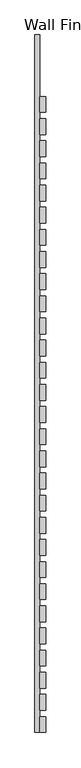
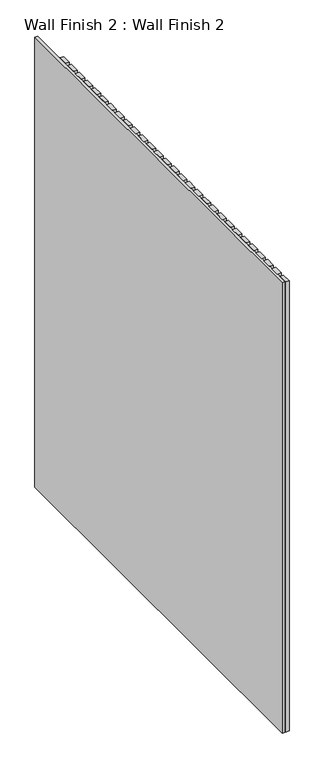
"""IFC4 building model written with IfcOpenShell, lengths in millimetres: furniture geometry, Wall Finish 2 : Wall Finish 2."""

from ifc_helpers import new_model, si_unit, frame, origin, place, context, project, spatial, polyline, outline, extrude, source, transform, mapped, element, save


def wall_finish_2_wall_finish_2_ec604deb(model_context):
    return source(origin(), model_context, "Body", "SweptSolid", [
        extrude(outline(polyline([(6345.6584713, -3831.9389803), (6345.6584713, -3881.9389803), (6325.6584713, -3881.9389803), (6325.6584713, -3831.9389803), (6345.6584713, -3831.9389803)])), frame((0.0, 0.0, 150.0), z_axis=(0.0, 0.0, 1.0), x_axis=(1.0, 0.0, 0.0)), (0.0, 0.0, 1.0), 2450.0),
        extrude(outline(polyline([(6345.6584713, -3761.9389803), (6345.6584713, -3811.9389803), (6325.6584713, -3811.9389803), (6325.6584713, -3761.9389803), (6345.6584713, -3761.9389803)])), frame((0.0, 0.0, 150.0), z_axis=(0.0, 0.0, 1.0), x_axis=(1.0, 0.0, 0.0)), (0.0, 0.0, 1.0), 2450.0),
        extrude(outline(polyline([(6345.6584713, -3691.9389803), (6345.6584713, -3741.9389803), (6325.6584713, -3741.9389803), (6325.6584713, -3691.9389803), (6345.6584713, -3691.9389803)])), frame((0.0, 0.0, 150.0), z_axis=(0.0, 0.0, 1.0), x_axis=(1.0, 0.0, 0.0)), (0.0, 0.0, 1.0), 2450.0),
        extrude(outline(polyline([(6345.6584713, -3621.9389803), (6345.6584713, -3671.9389803), (6325.6584713, -3671.9389803), (6325.6584713, -3621.9389803), (6345.6584713, -3621.9389803)])), frame((0.0, 0.0, 150.0), z_axis=(0.0, 0.0, 1.0), x_axis=(1.0, 0.0, 0.0)), (0.0, 0.0, 1.0), 2450.0),
        extrude(outline(polyline([(6345.6584713, -3551.9389803), (6345.6584713, -3601.9389803), (6325.6584713, -3601.9389803), (6325.6584713, -3551.9389803), (6345.6584713, -3551.9389803)])), frame((0.0, 0.0, 150.0), z_axis=(0.0, 0.0, 1.0), x_axis=(1.0, 0.0, 0.0)), (0.0, 0.0, 1.0), 2450.0),
        extrude(outline(polyline([(6345.6584713, -3481.9389803), (6345.6584713, -3531.9389803), (6325.6584713, -3531.9389803), (6325.6584713, -3481.9389803), (6345.6584713, -3481.9389803)])), frame((0.0, 0.0, 150.0), z_axis=(0.0, 0.0, 1.0), x_axis=(1.0, 0.0, 0.0)), (0.0, 0.0, 1.0), 2450.0),
        extrude(outline(polyline([(6345.6584713, -3411.9389803), (6345.6584713, -3461.9389803), (6325.6584713, -3461.9389803), (6325.6584713, -3411.9389803), (6345.6584713, -3411.9389803)])), frame((0.0, 0.0, 150.0), z_axis=(0.0, 0.0, 1.0), x_axis=(1.0, 0.0, 0.0)), (0.0, 0.0, 1.0), 2450.0),
        extrude(outline(polyline([(6345.6584713, -3341.9389803), (6345.6584713, -3391.9389803), (6325.6584713, -3391.9389803), (6325.6584713, -3341.9389803), (6345.6584713, -3341.9389803)])), frame((0.0, 0.0, 150.0), z_axis=(0.0, 0.0, 1.0), x_axis=(1.0, 0.0, 0.0)), (0.0, 0.0, 1.0), 2450.0),
        extrude(outline(polyline([(6345.6584713, -3271.9389803), (6345.6584713, -3321.9389803), (6325.6584713, -3321.9389803), (6325.6584713, -3271.9389803), (6345.6584713, -3271.9389803)])), frame((0.0, 0.0, 150.0), z_axis=(0.0, 0.0, 1.0), x_axis=(1.0, 0.0, 0.0)), (0.0, 0.0, 1.0), 2450.0),
        extrude(outline(polyline([(6345.6584713, -3201.9389803), (6345.6584713, -3251.9389803), (6325.6584713, -3251.9389803), (6325.6584713, -3201.9389803), (6345.6584713, -3201.9389803)])), frame((0.0, 0.0, 150.0), z_axis=(0.0, 0.0, 1.0), x_axis=(1.0, 0.0, 0.0)), (0.0, 0.0, 1.0), 2450.0),
        extrude(outline(polyline([(6345.6584713, -3131.9389803), (6345.6584713, -3181.9389803), (6325.6584713, -3181.9389803), (6325.6584713, -3131.9389803), (6345.6584713, -3131.9389803)])), frame((0.0, 0.0, 150.0), z_axis=(0.0, 0.0, 1.0), x_axis=(1.0, 0.0, 0.0)), (0.0, 0.0, 1.0), 2450.0),
        extrude(outline(polyline([(6345.6584713, -3061.9389803), (6345.6584713, -3111.9389803), (6325.6584713, -3111.9389803), (6325.6584713, -3061.9389803), (6345.6584713, -3061.9389803)])), frame((0.0, 0.0, 150.0), z_axis=(0.0, 0.0, 1.0), x_axis=(1.0, 0.0, 0.0)), (0.0, 0.0, 1.0), 2450.0),
        extrude(outline(polyline([(6345.6584713, -2991.9389803), (6345.6584713, -3041.9389803), (6325.6584713, -3041.9389803), (6325.6584713, -2991.9389803), (6345.6584713, -2991.9389803)])), frame((0.0, 0.0, 150.0), z_axis=(0.0, 0.0, 1.0), x_axis=(1.0, 0.0, 0.0)), (0.0, 0.0, 1.0), 2450.0),
        extrude(outline(polyline([(6345.6584713, -2921.9389803), (6345.6584713, -2971.9389803), (6325.6584713, -2971.9389803), (6325.6584713, -2921.9389803), (6345.6584713, -2921.9389803)])), frame((0.0, 0.0, 150.0), z_axis=(0.0, 0.0, 1.0), x_axis=(1.0, 0.0, 0.0)), (0.0, 0.0, 1.0), 2450.0),
        extrude(outline(polyline([(6345.6584713, -2851.9389803), (6345.6584713, -2901.9389803), (6325.6584713, -2901.9389803), (6325.6584713, -2851.9389803), (6345.6584713, -2851.9389803)])), frame((0.0, 0.0, 150.0), z_axis=(0.0, 0.0, 1.0), x_axis=(1.0, 0.0, 0.0)), (0.0, 0.0, 1.0), 2450.0),
        extrude(outline(polyline([(6345.6584713, -2781.9389803), (6345.6584713, -2831.9389803), (6325.6584713, -2831.9389803), (6325.6584713, -2781.9389803), (6345.6584713, -2781.9389803)])), frame((0.0, 0.0, 150.0), z_axis=(0.0, 0.0, 1.0), x_axis=(1.0, 0.0, 0.0)), (0.0, 0.0, 1.0), 2450.0),
        extrude(outline(polyline([(6345.6584713, -2711.9389803), (6345.6584713, -2761.9389803), (6325.6584713, -2761.9389803), (6325.6584713, -2711.9389803), (6345.6584713, -2711.9389803)])), frame((0.0, 0.0, 150.0), z_axis=(0.0, 0.0, 1.0), x_axis=(1.0, 0.0, 0.0)), (0.0, 0.0, 1.0), 2450.0),
        extrude(outline(polyline([(6345.6584713, -2641.9389803), (6345.6584713, -2691.9389803), (6325.6584713, -2691.9389803), (6325.6584713, -2641.9389803), (6345.6584713, -2641.9389803)])), frame((0.0, 0.0, 150.0), z_axis=(0.0, 0.0, 1.0), x_axis=(1.0, 0.0, 0.0)), (0.0, 0.0, 1.0), 2450.0),
        extrude(outline(polyline([(6345.6584713, -2571.9389803), (6345.6584713, -2621.9389803), (6325.6584713, -2621.9389803), (6325.6584713, -2571.9389803), (6345.6584713, -2571.9389803)])), frame((0.0, 0.0, 150.0), z_axis=(0.0, 0.0, 1.0), x_axis=(1.0, 0.0, 0.0)), (0.0, 0.0, 1.0), 2450.0),
        extrude(outline(polyline([(6345.6584713, -2501.9389803), (6345.6584713, -2551.9389803), (6325.6584713, -2551.9389803), (6325.6584713, -2501.9389803), (6345.6584713, -2501.9389803)])), frame((0.0, 0.0, 150.0), z_axis=(0.0, 0.0, 1.0), x_axis=(1.0, 0.0, 0.0)), (0.0, 0.0, 1.0), 2450.0),
        extrude(outline(polyline([(6345.6584713, -2431.9389803), (6345.6584713, -2481.9389803), (6325.6584713, -2481.9389803), (6325.6584713, -2431.9389803), (6345.6584713, -2431.9389803)])), frame((0.0, 0.0, 150.0), z_axis=(0.0, 0.0, 1.0), x_axis=(1.0, 0.0, 0.0)), (0.0, 0.0, 1.0), 2450.0),
        extrude(outline(polyline([(6345.6584713, -2361.9389803), (6345.6584713, -2411.9389803), (6325.6584713, -2411.9389803), (6325.6584713, -2361.9389803), (6345.6584713, -2361.9389803)])), frame((0.0, 0.0, 150.0), z_axis=(0.0, 0.0, 1.0), x_axis=(1.0, 0.0, 0.0)), (0.0, 0.0, 1.0), 2450.0),
        extrude(outline(polyline([(6345.6584713, -2291.9389803), (6345.6584713, -2341.9389803), (6325.6584713, -2341.9389803), (6325.6584713, -2291.9389803), (6345.6584713, -2291.9389803)])), frame((0.0, 0.0, 150.0), z_axis=(0.0, 0.0, 1.0), x_axis=(1.0, 0.0, 0.0)), (0.0, 0.0, 1.0), 2450.0),
        extrude(outline(polyline([(6345.6584713, -2221.9389803), (6345.6584713, -2271.9389803), (6325.6584713, -2271.9389803), (6325.6584713, -2221.9389803), (6345.6584713, -2221.9389803)])), frame((0.0, 0.0, 150.0), z_axis=(0.0, 0.0, 1.0), x_axis=(1.0, 0.0, 0.0)), (0.0, 0.0, 1.0), 2450.0),
        extrude(outline(polyline([(6345.6584713, -2151.9389803), (6345.6584713, -2201.9389803), (6325.6584713, -2201.9389803), (6325.6584713, -2151.9389803), (6345.6584713, -2151.9389803)])), frame((0.0, 0.0, 150.0), z_axis=(0.0, 0.0, 1.0), x_axis=(1.0, 0.0, 0.0)), (0.0, 0.0, 1.0), 2450.0),
        extrude(outline(polyline([(6345.6584713, -2081.9389803), (6345.6584713, -2131.9389803), (6325.6584713, -2131.9389803), (6325.6584713, -2081.9389803), (6345.6584713, -2081.9389803)])), frame((0.0, 0.0, 150.0), z_axis=(0.0, 0.0, 1.0), x_axis=(1.0, 0.0, 0.0)), (0.0, 0.0, 1.0), 2450.0),
        extrude(outline(polyline([(6345.6584713, -2011.9389803), (6345.6584713, -2061.9389803), (6325.6584713, -2061.9389803), (6325.6584713, -2011.9389803), (6345.6584713, -2011.9389803)])), frame((0.0, 0.0, 150.0), z_axis=(0.0, 0.0, 1.0), x_axis=(1.0, 0.0, 0.0)), (0.0, 0.0, 1.0), 2450.0),
        extrude(outline(polyline([(6345.6584713, -1941.9389803), (6345.6584713, -1991.9389803), (6325.6584713, -1991.9389803), (6325.6584713, -1941.9389803), (6345.6584713, -1941.9389803)])), frame((0.0, 0.0, 150.0), z_axis=(0.0, 0.0, 1.0), x_axis=(1.0, 0.0, 0.0)), (0.0, 0.0, 1.0), 2450.0),
        extrude(outline(polyline([(6345.6584713, -1871.9389803), (6345.6584713, -1921.9389803), (6325.6584713, -1921.9389803), (6325.6584713, -1871.9389803), (6345.6584713, -1871.9389803)])), frame((0.0, 0.0, 150.0), z_axis=(0.0, 0.0, 1.0), x_axis=(1.0, 0.0, 0.0)), (0.0, 0.0, 1.0), 2450.0),
        extrude(outline(polyline([(6325.6584713, -1676.9389803), (6325.6584713, -3881.9389803), (6310.6584713, -3881.9389803), (6310.6584713, -1676.9389803), (6325.6584713, -1676.9389803)])), frame((0.0, 0.0, 150.0), z_axis=(0.0, 0.0, 1.0), x_axis=(1.0, 0.0, 0.0)), (0.0, 0.0, 1.0), 2450.0),
    ])


if __name__ == "__main__":
    model = new_model("IFC4")
    model_context = context("Model", 3, world=origin())
    ifc_project = project(units=[si_unit("LENGTHUNIT", "METRE", prefix="MILLI")], contexts=[model_context])
    site = spatial("IfcSite", under=ifc_project)
    building = spatial("IfcBuilding", under=site)
    placement = place(None, origin())
    wall_finish_2_wall_finish_2_shape = wall_finish_2_wall_finish_2_ec604deb(model_context)
    element("IfcFurniture", 1, ObjectType="Wall Finish 2 : Wall Finish 2", at=placement, inside=building, context=model_context, shape_type="MappedRepresentation", body=[
        mapped(wall_finish_2_wall_finish_2_shape, transform((0.0, 0.0, 0.0), x_axis=(1.0, 0.0, 0.0), y_axis=(0.0, 1.0, 0.0), z_axis=(0.0, 0.0, 1.0))),
    ])
    save(model, "model.ifc")
